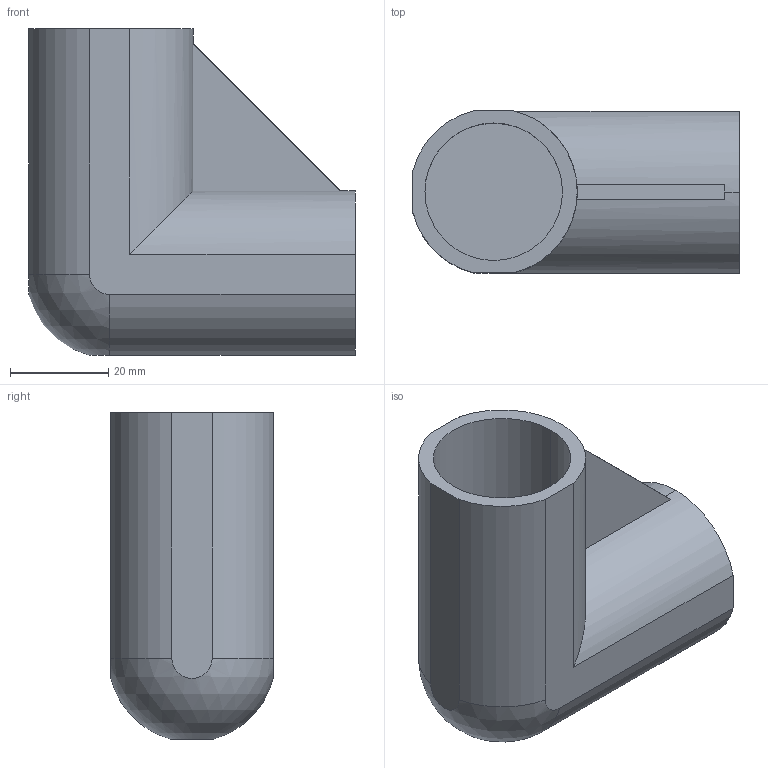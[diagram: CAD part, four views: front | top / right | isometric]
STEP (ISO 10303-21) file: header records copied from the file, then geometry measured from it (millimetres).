
FILE_DESCRIPTION (( 'STEP AP214' ), '1' );
FILE_NAME ('PJ-002.STEP', '2023-09-12T10:56:44', ( 'catia' ), ( 'HP Inc.' ), 'SwSTEP 2.0', 'SolidWorks 2021', '' );
FILE_SCHEMA (( 'AUTOMOTIVE_DESIGN' ));
Length unit declared in the file: millimetre
Products named in the file (1): PJ-002
Bounding box: 66.5 x 33 x 66.5 mm (x, y, z)
Volume: 52962.7 mm3; surface area: 18340.5 mm2
Topology: 1 solids, 1 shells, 23 faces, 57 edges, 38 vertices
Faces by surface type: cylinder 11, plane 11, sphere 1
Entity records: 728 total; most frequent: CARTESIAN_POINT 134, DIRECTION 123, ORIENTED_EDGE 114, EDGE_CURVE 57, AXIS2_PLACEMENT_3D 47, VERTEX_POINT 38, VECTOR 29, LINE 29
